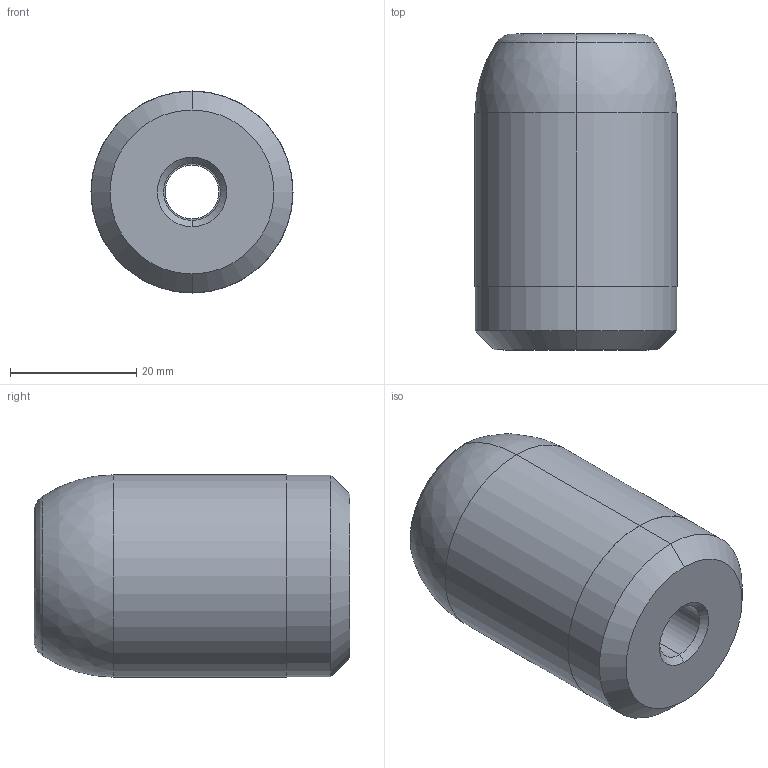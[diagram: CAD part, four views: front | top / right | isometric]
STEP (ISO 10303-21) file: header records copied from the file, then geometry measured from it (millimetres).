
FILE_DESCRIPTION(('CATIA V5 STEP Exchange'),'2;1');
FILE_NAME('C:\Users\Utente\Desktop\IO LAVORO\3D X SITO CF\X SITO\700\700-32-50.stp','2020-11-29T12:13:27+00:00',('none'),('none'),'CATIA Version 5 Release 20 GA (IN-10)','CATIA V5 STEP AP203','none');
FILE_SCHEMA(('CONFIG_CONTROL_DESIGN'));
Length unit declared in the file: millimetre
Products named in the file (1): 700-32-50
Bounding box: 32 x 50 x 32 mm (x, y, z)
Volume: 35057.2 mm3; surface area: 7261.5 mm2
Topology: 1 solids, 1 shells, 22 faces, 44 edges, 26 vertices
Faces by surface type: cylinder 8, cone 6, plane 4, torus 2, revolution 2
Entity records: 681 total; most frequent: CARTESIAN_POINT 186, ORIENTED_EDGE 88, DIRECTION 83, AXIS2_PLACEMENT_3D 48, EDGE_CURVE 44, CIRCLE 27, EDGE_LOOP 26, VERTEX_POINT 26
